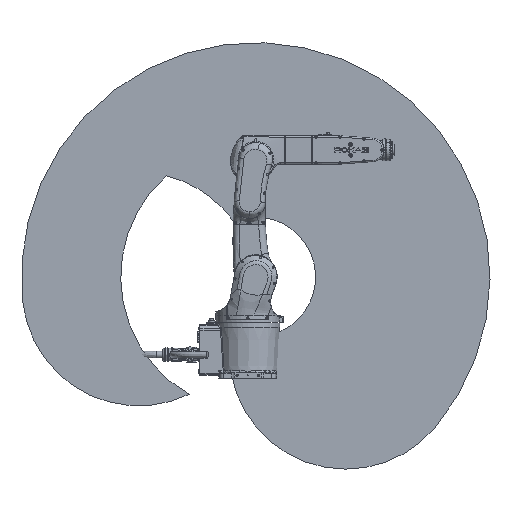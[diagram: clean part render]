
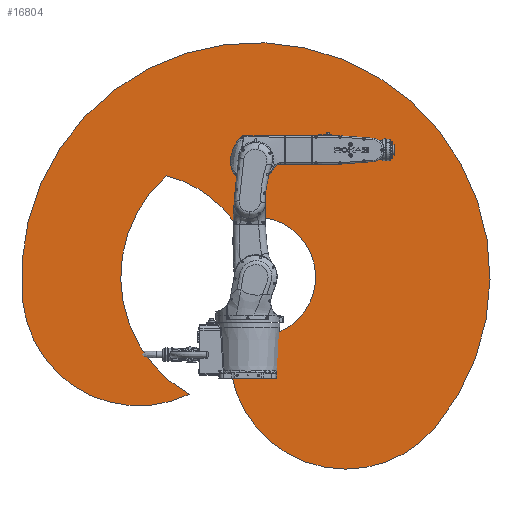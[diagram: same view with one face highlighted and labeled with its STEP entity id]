
A CAD part, front view. The second image highlights one B-rep face of the part: STEP entity #16804.
In plain terms, the highlighted planar face has unit normal (0, -1, 0).
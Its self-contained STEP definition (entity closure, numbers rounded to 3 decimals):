
#16804=ADVANCED_FACE('',(#21410),#18137,.T.);
#18137=PLANE('',#65390);
#21410=FACE_OUTER_BOUND('',#25854,.T.);
#25854=EDGE_LOOP('',(#42769,#42770,#42771,#42772,#42773,#42774));
#42769=ORIENTED_EDGE('',*,*,#56538,.T.);
#42770=ORIENTED_EDGE('',*,*,#56539,.T.);
#42771=ORIENTED_EDGE('',*,*,#56540,.T.);
#42772=ORIENTED_EDGE('',*,*,#56541,.T.);
#42773=ORIENTED_EDGE('',*,*,#56542,.T.);
#42774=ORIENTED_EDGE('',*,*,#56543,.T.);
#48075=VERTEX_POINT('',#148587);
#48076=VERTEX_POINT('',#148588);
#48077=VERTEX_POINT('',#148590);
#48078=VERTEX_POINT('',#148592);
#48079=VERTEX_POINT('',#148594);
#48080=VERTEX_POINT('',#148596);
#56538=EDGE_CURVE('',#48075,#48076,#59457,.T.);
#56539=EDGE_CURVE('',#48076,#48077,#59458,.T.);
#56540=EDGE_CURVE('',#48077,#48078,#59459,.T.);
#56541=EDGE_CURVE('',#48078,#48079,#59460,.T.);
#56542=EDGE_CURVE('',#48079,#48080,#59461,.T.);
#56543=EDGE_CURVE('',#48080,#48075,#59462,.T.);
#59457=CIRCLE('',#65384,223.902);
#59458=CIRCLE('',#65385,436.406);
#59459=CIRCLE('',#65386,876.406);
#59460=CIRCLE('',#65387,436.406);
#59461=CIRCLE('',#65388,505.197);
#59462=CIRCLE('',#65389,436.406);
#65384=AXIS2_PLACEMENT_3D('',#148586,#80456,#80457);
#65385=AXIS2_PLACEMENT_3D('',#148589,#80458,#80459);
#65386=AXIS2_PLACEMENT_3D('',#148591,#80460,#80461);
#65387=AXIS2_PLACEMENT_3D('',#148593,#80462,#80463);
#65388=AXIS2_PLACEMENT_3D('',#148595,#80464,#80465);
#65389=AXIS2_PLACEMENT_3D('',#148597,#80466,#80467);
#65390=AXIS2_PLACEMENT_3D('',#148598,#80468,#80469);
#80456=DIRECTION('',(0.,1.,0.));
#80457=DIRECTION('',(1.,0.,0.));
#80458=DIRECTION('',(0.,-1.,0.));
#80459=DIRECTION('',(1.,0.,0.));
#80460=DIRECTION('',(0.,-1.,0.));
#80461=DIRECTION('',(1.,0.,0.));
#80462=DIRECTION('',(0.,-1.,0.));
#80463=DIRECTION('',(1.,0.,0.));
#80464=DIRECTION('',(0.,1.,0.));
#80465=DIRECTION('',(1.,0.,0.));
#80466=DIRECTION('',(0.,1.,0.));
#80467=DIRECTION('',(1.,0.,0.));
#80468=DIRECTION('',(0.,-1.,0.));
#80469=DIRECTION('',(0.,0.,-1.));
#148586=CARTESIAN_POINT('',(7411.902,613.727,0.));
#148587=CARTESIAN_POINT('',(7329.154,613.727,208.05));
#148588=CARTESIAN_POINT('',(7319.725,613.727,-204.048));
#148589=CARTESIAN_POINT('',(7748.961,613.727,-282.827));
#148590=CARTESIAN_POINT('',(8083.268,613.727,-563.343));
#148591=CARTESIAN_POINT('',(7411.902,613.727,0.));
#148592=CARTESIAN_POINT('',(6540.297,613.727,-91.609));
#148593=CARTESIAN_POINT('',(6974.312,613.727,-45.993));
#148594=CARTESIAN_POINT('',(7162.877,613.727,-439.557));
#148595=CARTESIAN_POINT('',(7411.902,613.727,0.));
#148596=CARTESIAN_POINT('',(7076.93,613.727,378.177));
#148597=CARTESIAN_POINT('',(6974.312,613.727,-45.993));
#148598=CARTESIAN_POINT('',(7193.107,613.727,-22.996));
